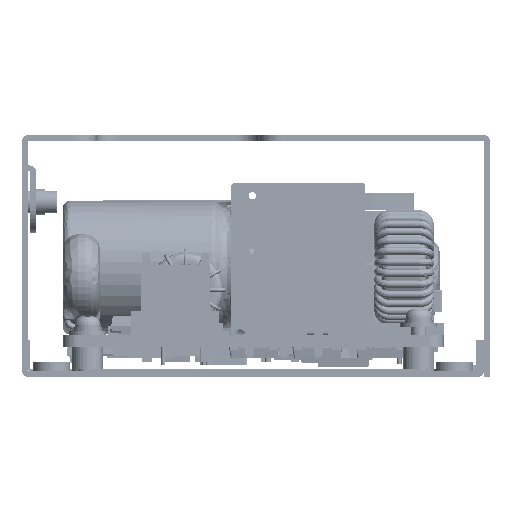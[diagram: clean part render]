
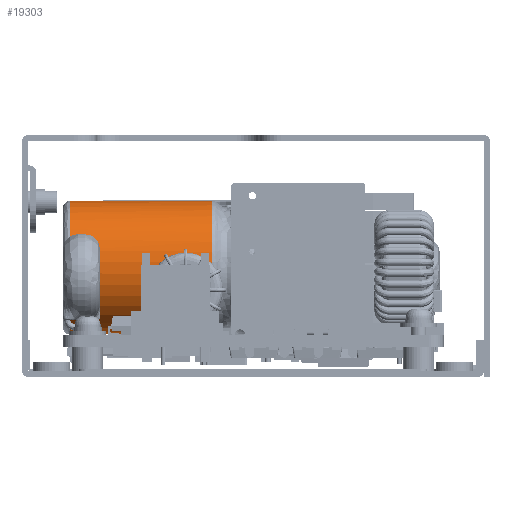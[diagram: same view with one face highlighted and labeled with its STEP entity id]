
A CAD part, left-side view. The second image highlights one B-rep face of the part: STEP entity #19303.
In plain terms, the highlighted cylindrical face has radius 9 mm (diameter 18 mm), a full revolution.
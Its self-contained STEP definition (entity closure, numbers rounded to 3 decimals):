
#4656 = CARTESIAN_POINT ( 'NONE',  ( 0., 0., 0. ) ) ;
#14317 = VERTEX_POINT ( 'NONE', #111837 ) ;
#19303 = ADVANCED_FACE ( 'NONE', ( #35388, #50238 ), #132925, .T. ) ;
#32427 = EDGE_LOOP ( 'NONE', ( #49878 ) ) ;
#32610 = DIRECTION ( 'NONE',  ( 0., 0., 1. ) ) ;
#32766 = CIRCLE ( 'NONE', #205370, 9. ) ;
#35388 = FACE_OUTER_BOUND ( 'NONE', #32427, .T. ) ;
#41382 = EDGE_CURVE ( 'NONE', #14317, #14317, #69283, .T. ) ;
#45692 = AXIS2_PLACEMENT_3D ( 'NONE', #159828, #158792, #32610 ) ;
#49878 = ORIENTED_EDGE ( 'NONE', *, *, #41382, .T. ) ;
#50238 = FACE_OUTER_BOUND ( 'NONE', #192184, .T. ) ;
#67003 = CARTESIAN_POINT ( 'NONE',  ( 0., 5., 0. ) ) ;
#69283 = CIRCLE ( 'NONE', #45692, 9. ) ;
#101974 = DIRECTION ( 'NONE',  ( 0., 1., 0. ) ) ;
#111837 = CARTESIAN_POINT ( 'NONE',  ( 0., 24., 9. ) ) ;
#112445 = CARTESIAN_POINT ( 'NONE',  ( 0., 5., 9. ) ) ;
#121075 = VERTEX_POINT ( 'NONE', #112445 ) ;
#132925 = CYLINDRICAL_SURFACE ( 'NONE', #167359, 9. ) ;
#133988 = DIRECTION ( 'NONE',  ( 0., 1., 0. ) ) ;
#158792 = DIRECTION ( 'NONE',  ( 0., -1., 0. ) ) ;
#159828 = CARTESIAN_POINT ( 'NONE',  ( 0., 24., 0. ) ) ;
#166551 = DIRECTION ( 'NONE',  ( 0., 0., 1. ) ) ;
#167359 = AXIS2_PLACEMENT_3D ( 'NONE', #4656, #133988, #179504 ) ;
#179504 = DIRECTION ( 'NONE',  ( 0., 0., 1. ) ) ;
#192184 = EDGE_LOOP ( 'NONE', ( #200971 ) ) ;
#197437 = EDGE_CURVE ( 'NONE', #121075, #121075, #32766, .T. ) ;
#200971 = ORIENTED_EDGE ( 'NONE', *, *, #197437, .T. ) ;
#205370 = AXIS2_PLACEMENT_3D ( 'NONE', #67003, #101974, #166551 ) ;
